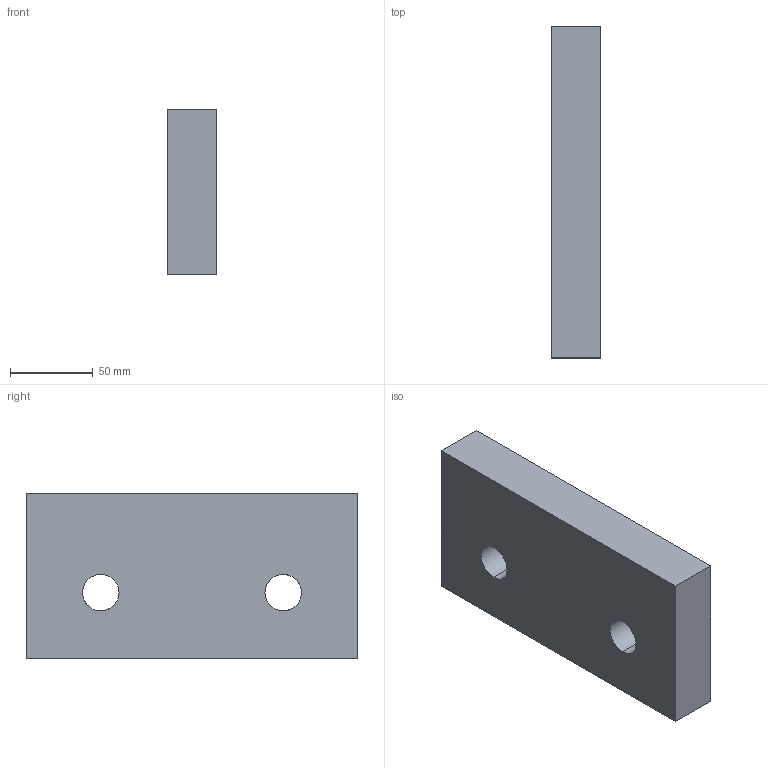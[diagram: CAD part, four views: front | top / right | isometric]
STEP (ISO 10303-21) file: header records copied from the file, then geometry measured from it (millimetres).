
FILE_DESCRIPTION(('CATIA V5 STEP Exchange'),'2;1');
FILE_NAME('C:\Users\Raffaele\Desktop\3D X SITO CF\A612\A611-100-2001\A612-100-2001.stp','2019-07-12T12:54:55+00:00',('none'),('none'),'CATIA Version 5 Release 20 GA (IN-10)','CATIA V5 STEP AP203','none');
FILE_SCHEMA(('CONFIG_CONTROL_DESIGN'));
Length unit declared in the file: millimetre
Products named in the file (1): A612-100-2001
Bounding box: 30 x 200 x 100 mm (x, y, z)
Volume: 577192 mm3; surface area: 60626.4 mm2
Topology: 1 solids, 1 shells, 10 faces, 32 edges, 24 vertices
Faces by surface type: plane 6, cylinder 4
Entity records: 506 total; most frequent: CARTESIAN_POINT 179, ORIENTED_EDGE 64, DIRECTION 44, EDGE_CURVE 32, VERTEX_POINT 24, AXIS2_PLACEMENT_3D 19, VECTOR 16, LINE 16
